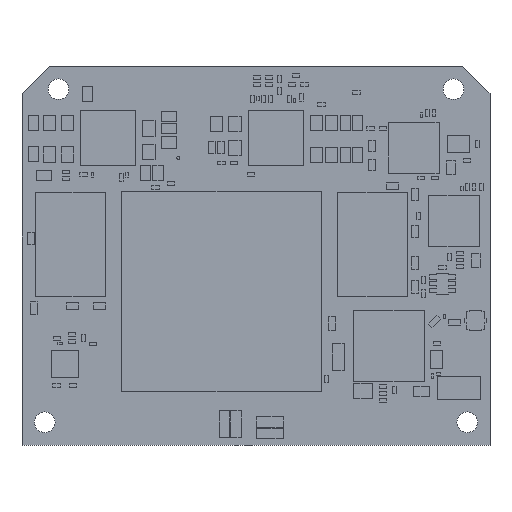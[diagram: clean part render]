
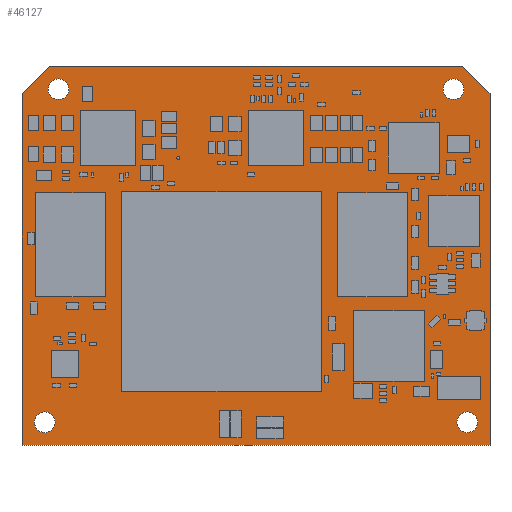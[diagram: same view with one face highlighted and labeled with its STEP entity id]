
A CAD part, top view. The second image highlights one B-rep face of the part: STEP entity #46127.
In plain terms, the highlighted planar face has unit normal (0, 0, 1).
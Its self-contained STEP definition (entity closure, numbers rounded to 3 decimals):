
#297 = FACE_BOUND ( 'NONE', #36118, .T. ) ;
#1730 = DIRECTION ( 'NONE',  ( 1., 0., 0. ) ) ;
#1757 = EDGE_CURVE ( 'NONE', #33167, #62952, #63981, .T. ) ;
#2133 = AXIS2_PLACEMENT_3D ( 'NONE', #57946, #6919, #29623 ) ;
#2512 = EDGE_CURVE ( 'NONE', #20025, #22474, #39819, .T. ) ;
#4596 = EDGE_CURVE ( 'NONE', #69940, #12996, #44787, .T. ) ;
#5901 = FACE_BOUND ( 'NONE', #69219, .T. ) ;
#6300 = VECTOR ( 'NONE', #65496, 1000. ) ;
#6919 = DIRECTION ( 'NONE',  ( 0., 0., 1. ) ) ;
#7675 = AXIS2_PLACEMENT_3D ( 'NONE', #25354, #48087, #70827 ) ;
#7772 = LINE ( 'NONE', #30477, #63724 ) ;
#8019 = DIRECTION ( 'NONE',  ( 0., 1., 0. ) ) ;
#8172 = DIRECTION ( 'NONE',  ( 0., 0., 1. ) ) ;
#8759 = VERTEX_POINT ( 'NONE', #60303 ) ;
#9179 = ORIENTED_EDGE ( 'NONE', *, *, #35121, .T. ) ;
#9376 = AXIS2_PLACEMENT_3D ( 'NONE', #64414, #13382, #36075 ) ;
#9591 = CARTESIAN_POINT ( 'NONE',  ( 5.302, 51.736, 1.158 ) ) ;
#10088 = ORIENTED_EDGE ( 'NONE', *, *, #2512, .F. ) ;
#12053 = EDGE_CURVE ( 'NONE', #62952, #33167, #48062, .T. ) ;
#12380 = ORIENTED_EDGE ( 'NONE', *, *, #36053, .F. ) ;
#12623 = LINE ( 'NONE', #35318, #68484 ) ;
#12699 = AXIS2_PLACEMENT_3D ( 'NONE', #30029, #52755, #1730 ) ;
#12996 = VERTEX_POINT ( 'NONE', #23559 ) ;
#13382 = DIRECTION ( 'NONE',  ( 0., 0., 1. ) ) ;
#13773 = EDGE_CURVE ( 'NONE', #8759, #68432, #12623, .T. ) ;
#14526 = ORIENTED_EDGE ( 'NONE', *, *, #24953, .T. ) ;
#14649 = CARTESIAN_POINT ( 'NONE',  ( 68., 0., 1.158 ) ) ;
#15814 = CARTESIAN_POINT ( 'NONE',  ( 64.063, 55., 1.158 ) ) ;
#15830 = EDGE_CURVE ( 'NONE', #30045, #67689, #34361, .T. ) ;
#16206 = ORIENTED_EDGE ( 'NONE', *, *, #19656, .T. ) ;
#16310 = CARTESIAN_POINT ( 'NONE',  ( 3.937, 55., 1.158 ) ) ;
#16457 = CARTESIAN_POINT ( 'NONE',  ( 0., 51.063, 1.158 ) ) ;
#17450 = DIRECTION ( 'NONE',  ( 0., 0., 1. ) ) ;
#19382 = LINE ( 'NONE', #42126, #25469 ) ;
#19656 = EDGE_CURVE ( 'NONE', #46239, #34214, #20017, .T. ) ;
#20017 = LINE ( 'NONE', #42766, #6300 ) ;
#20025 = VERTEX_POINT ( 'NONE', #24764 ) ;
#21268 = CARTESIAN_POINT ( 'NONE',  ( 3.302, 3.34, 1.158 ) ) ;
#22474 = VERTEX_POINT ( 'NONE', #58327 ) ;
#22663 = CIRCLE ( 'NONE', #64357, 1.499 ) ;
#22855 = AXIS2_PLACEMENT_3D ( 'NONE', #9591, #32282, #55006 ) ;
#22976 = FACE_OUTER_BOUND ( 'NONE', #55424, .T. ) ;
#23559 = CARTESIAN_POINT ( 'NONE',  ( 66.197, 3.34, 1.158 ) ) ;
#24764 = CARTESIAN_POINT ( 'NONE',  ( 6.801, 51.736, 1.158 ) ) ;
#24784 = AXIS2_PLACEMENT_3D ( 'NONE', #68482, #17450, #40188 ) ;
#24953 = EDGE_CURVE ( 'NONE', #67775, #46239, #7772, .T. ) ;
#25354 = CARTESIAN_POINT ( 'NONE',  ( 5.302, 51.736, 1.158 ) ) ;
#25469 = VECTOR ( 'NONE', #64866, 1000. ) ;
#25542 = EDGE_LOOP ( 'NONE', ( #28277, #68620 ) ) ;
#26181 = CARTESIAN_POINT ( 'NONE',  ( 62.698, 51.736, 1.158 ) ) ;
#28277 = ORIENTED_EDGE ( 'NONE', *, *, #15830, .F. ) ;
#28596 = FACE_BOUND ( 'NONE', #73742, .T. ) ;
#29623 = DIRECTION ( 'NONE',  ( 1., 0., 0. ) ) ;
#29775 = CARTESIAN_POINT ( 'NONE',  ( 1.803, 3.34, 1.158 ) ) ;
#30029 = CARTESIAN_POINT ( 'NONE',  ( 64.698, 3.34, 1.158 ) ) ;
#30045 = VERTEX_POINT ( 'NONE', #63147 ) ;
#30477 = CARTESIAN_POINT ( 'NONE',  ( 0., 51.063, 1.158 ) ) ;
#30863 = DIRECTION ( 'NONE',  ( 1., 0., 0. ) ) ;
#32200 = ORIENTED_EDGE ( 'NONE', *, *, #12053, .F. ) ;
#32282 = DIRECTION ( 'NONE',  ( 0., 0., 1. ) ) ;
#33167 = VERTEX_POINT ( 'NONE', #29775 ) ;
#33730 = ORIENTED_EDGE ( 'NONE', *, *, #1757, .F. ) ;
#34214 = VERTEX_POINT ( 'NONE', #14649 ) ;
#34226 = CARTESIAN_POINT ( 'NONE',  ( 3.937, 55., 1.158 ) ) ;
#34361 = CIRCLE ( 'NONE', #2133, 1.499 ) ;
#34751 = ORIENTED_EDGE ( 'NONE', *, *, #57978, .T. ) ;
#35121 = EDGE_CURVE ( 'NONE', #63069, #67775, #67346, .T. ) ;
#35318 = CARTESIAN_POINT ( 'NONE',  ( 68., 51.063, 1.158 ) ) ;
#36053 = EDGE_CURVE ( 'NONE', #12996, #69940, #41487, .T. ) ;
#36075 = DIRECTION ( 'NONE',  ( 1., 0., 0. ) ) ;
#36118 = EDGE_LOOP ( 'NONE', ( #32200, #33730 ) ) ;
#36310 = LINE ( 'NONE', #59045, #46683 ) ;
#37353 = CARTESIAN_POINT ( 'NONE',  ( 63.2, 3.34, 1.158 ) ) ;
#38629 = EDGE_CURVE ( 'NONE', #67689, #30045, #22663, .T. ) ;
#39032 = DIRECTION ( 'NONE',  ( -0.707, -0.707, 0. ) ) ;
#39819 = CIRCLE ( 'NONE', #7675, 1.499 ) ;
#40188 = DIRECTION ( 'NONE',  ( 1., 0., 0. ) ) ;
#41487 = CIRCLE ( 'NONE', #9376, 1.499 ) ;
#42126 = CARTESIAN_POINT ( 'NONE',  ( 64.063, 55., 1.158 ) ) ;
#42766 = CARTESIAN_POINT ( 'NONE',  ( 0., 0., 1.158 ) ) ;
#44022 = DIRECTION ( 'NONE',  ( 0., 0., 1. ) ) ;
#44787 = CIRCLE ( 'NONE', #12699, 1.499 ) ;
#45723 = PLANE ( 'NONE',  #24784 ) ;
#46127 = ADVANCED_FACE ( 'NONE', ( #5901, #28596, #51322, #297, #22976 ), #45723, .T. ) ;
#46239 = VERTEX_POINT ( 'NONE', #52422 ) ;
#46683 = VECTOR ( 'NONE', #8019, 1000. ) ;
#48062 = CIRCLE ( 'NONE', #60060, 1.499 ) ;
#48087 = DIRECTION ( 'NONE',  ( 0., 0., 1. ) ) ;
#48918 = DIRECTION ( 'NONE',  ( 0., 0., 1. ) ) ;
#50655 = EDGE_CURVE ( 'NONE', #22474, #20025, #55003, .T. ) ;
#50992 = EDGE_CURVE ( 'NONE', #34214, #8759, #36310, .T. ) ;
#51322 = FACE_BOUND ( 'NONE', #25542, .T. ) ;
#52206 = AXIS2_PLACEMENT_3D ( 'NONE', #59203, #8172, #30863 ) ;
#52422 = CARTESIAN_POINT ( 'NONE',  ( 0., 0., 1.158 ) ) ;
#52755 = DIRECTION ( 'NONE',  ( 0., 0., 1. ) ) ;
#53213 = DIRECTION ( 'NONE',  ( 0., -1., 0. ) ) ;
#54826 = CARTESIAN_POINT ( 'NONE',  ( 61.2, 51.736, 1.158 ) ) ;
#55003 = CIRCLE ( 'NONE', #22855, 1.499 ) ;
#55006 = DIRECTION ( 'NONE',  ( 1., 0., 0. ) ) ;
#55424 = EDGE_LOOP ( 'NONE', ( #16206, #62280, #59817, #34751, #9179, #14526 ) ) ;
#56854 = VECTOR ( 'NONE', #39032, 1000. ) ;
#57946 = CARTESIAN_POINT ( 'NONE',  ( 62.698, 51.736, 1.158 ) ) ;
#57978 = EDGE_CURVE ( 'NONE', #68432, #63069, #19382, .T. ) ;
#58047 = DIRECTION ( 'NONE',  ( -0.707, 0.707, 0. ) ) ;
#58327 = CARTESIAN_POINT ( 'NONE',  ( 3.803, 51.736, 1.158 ) ) ;
#59045 = CARTESIAN_POINT ( 'NONE',  ( 68., 0., 1.158 ) ) ;
#59203 = CARTESIAN_POINT ( 'NONE',  ( 3.302, 3.34, 1.158 ) ) ;
#59817 = ORIENTED_EDGE ( 'NONE', *, *, #13773, .T. ) ;
#60060 = AXIS2_PLACEMENT_3D ( 'NONE', #21268, #44022, #66756 ) ;
#60303 = CARTESIAN_POINT ( 'NONE',  ( 68., 51.063, 1.158 ) ) ;
#60722 = CARTESIAN_POINT ( 'NONE',  ( 4.801, 3.34, 1.158 ) ) ;
#62280 = ORIENTED_EDGE ( 'NONE', *, *, #50992, .T. ) ;
#62952 = VERTEX_POINT ( 'NONE', #60722 ) ;
#63069 = VERTEX_POINT ( 'NONE', #34226 ) ;
#63147 = CARTESIAN_POINT ( 'NONE',  ( 64.197, 51.736, 1.158 ) ) ;
#63724 = VECTOR ( 'NONE', #53213, 1000. ) ;
#63981 = CIRCLE ( 'NONE', #52206, 1.499 ) ;
#64357 = AXIS2_PLACEMENT_3D ( 'NONE', #26181, #48918, #71640 ) ;
#64414 = CARTESIAN_POINT ( 'NONE',  ( 64.698, 3.34, 1.158 ) ) ;
#64866 = DIRECTION ( 'NONE',  ( -1., 0., 0. ) ) ;
#65496 = DIRECTION ( 'NONE',  ( 1., 0., 0. ) ) ;
#66756 = DIRECTION ( 'NONE',  ( 1., 0., 0. ) ) ;
#67346 = LINE ( 'NONE', #16310, #56854 ) ;
#67612 = ORIENTED_EDGE ( 'NONE', *, *, #4596, .F. ) ;
#67689 = VERTEX_POINT ( 'NONE', #54826 ) ;
#67775 = VERTEX_POINT ( 'NONE', #16457 ) ;
#68432 = VERTEX_POINT ( 'NONE', #15814 ) ;
#68482 = CARTESIAN_POINT ( 'NONE',  ( 0., 0., 1.158 ) ) ;
#68484 = VECTOR ( 'NONE', #58047, 1000. ) ;
#68620 = ORIENTED_EDGE ( 'NONE', *, *, #38629, .F. ) ;
#69219 = EDGE_LOOP ( 'NONE', ( #10088, #70044 ) ) ;
#69940 = VERTEX_POINT ( 'NONE', #37353 ) ;
#70044 = ORIENTED_EDGE ( 'NONE', *, *, #50655, .F. ) ;
#70827 = DIRECTION ( 'NONE',  ( 1., 0., 0. ) ) ;
#71640 = DIRECTION ( 'NONE',  ( 1., 0., 0. ) ) ;
#73742 = EDGE_LOOP ( 'NONE', ( #12380, #67612 ) ) ;
